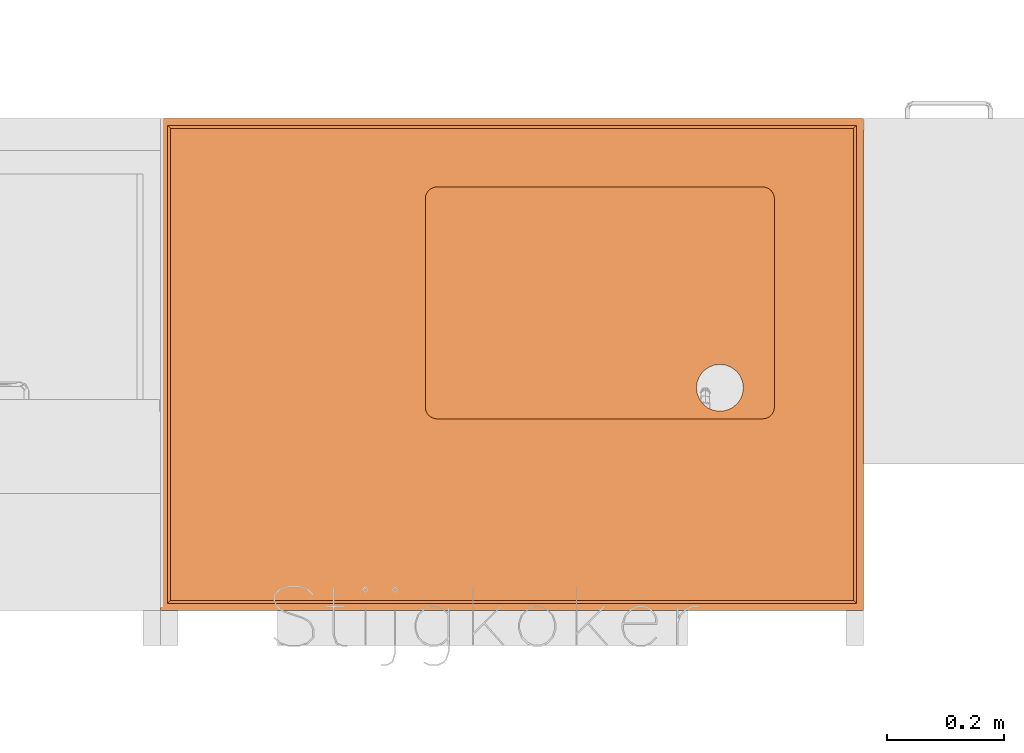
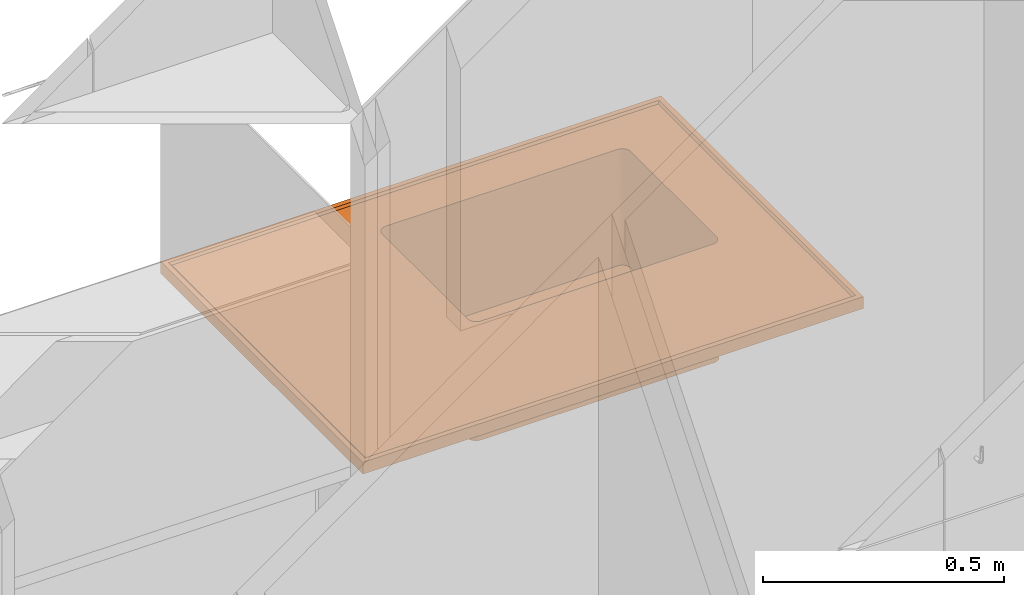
# One storey, part 26 of 32: 1 proxy.
"""IFC2X3 building model written with IfcOpenShell, lengths in metres."""

from ifc_helpers import new_model, entity, si_unit, converted_unit, derived_unit, direction, frame, origin, place, context, subcontext, project, spatial, faceted_brep, source, transform, mapped, material, type_object, type_shapes, element, save


model = new_model("IFC2X3")

# Units and contexts
model_context = context("Model", 3, precision=1e-05, world=origin(), true_north=direction((6.12303176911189e-17, 1.0)))
body_context = subcontext(model_context, "Body", "Model", "MODEL_VIEW")
ifc_project = project(units=[si_unit("LENGTHUNIT", "METRE"), si_unit("AREAUNIT", "SQUARE_METRE"), si_unit("VOLUMEUNIT", "CUBIC_METRE"), converted_unit("PLANEANGLEUNIT", "DEGREE", entity("IfcRatioMeasure", 0.0174532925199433), si_unit("PLANEANGLEUNIT", "RADIAN"), dimensions=[0, 0, 0, 0, 0, 0, 0]), si_unit("MASSUNIT", "GRAM", prefix="KILO"), derived_unit("MASSDENSITYUNIT", [(si_unit("MASSUNIT", "GRAM", prefix="KILO"), 1), (si_unit("LENGTHUNIT", "METRE"), -3)]), derived_unit("MOMENTOFINERTIAUNIT", [(si_unit("LENGTHUNIT", "METRE"), 4)]), si_unit("TIMEUNIT", "SECOND"), si_unit("FREQUENCYUNIT", "HERTZ"), si_unit("THERMODYNAMICTEMPERATUREUNIT", "DEGREE_CELSIUS"), derived_unit("THERMALTRANSMITTANCEUNIT", [(si_unit("MASSUNIT", "GRAM", prefix="KILO"), 1), (si_unit("THERMODYNAMICTEMPERATUREUNIT", "KELVIN"), -1), (si_unit("TIMEUNIT", "SECOND"), -3)]), derived_unit("VOLUMETRICFLOWRATEUNIT", [(si_unit("LENGTHUNIT", "METRE"), 3), (si_unit("TIMEUNIT", "SECOND"), -1)]), si_unit("ELECTRICCURRENTUNIT", "AMPERE"), si_unit("ELECTRICVOLTAGEUNIT", "VOLT"), si_unit("POWERUNIT", "WATT"), si_unit("FORCEUNIT", "NEWTON", prefix="KILO"), si_unit("ILLUMINANCEUNIT", "LUX"), si_unit("LUMINOUSFLUXUNIT", "LUMEN"), si_unit("LUMINOUSINTENSITYUNIT", "CANDELA"), derived_unit("USERDEFINED", [(si_unit("MASSUNIT", "GRAM", prefix="KILO"), -1), (si_unit("LENGTHUNIT", "METRE"), -2), (si_unit("TIMEUNIT", "SECOND"), 3), (si_unit("LUMINOUSFLUXUNIT", "LUMEN"), 1)]), derived_unit("LINEARVELOCITYUNIT", [(si_unit("LENGTHUNIT", "METRE"), 1), (si_unit("TIMEUNIT", "SECOND"), -1)]), si_unit("PRESSUREUNIT", "PASCAL"), derived_unit("USERDEFINED", [(si_unit("LENGTHUNIT", "METRE"), -2), (si_unit("MASSUNIT", "GRAM", prefix="KILO"), 1), (si_unit("TIMEUNIT", "SECOND"), -2)]), derived_unit("LINEARFORCEUNIT", [(si_unit("MASSUNIT", "GRAM", prefix="KILO"), 1), (si_unit("LENGTHUNIT", "METRE"), 1), (si_unit("TIMEUNIT", "SECOND"), -2), (si_unit("LENGTHUNIT", "METRE"), -1)]), derived_unit("PLANARFORCEUNIT", [(si_unit("MASSUNIT", "GRAM", prefix="KILO"), 1), (si_unit("LENGTHUNIT", "METRE"), 1), (si_unit("TIMEUNIT", "SECOND"), -2), (si_unit("LENGTHUNIT", "METRE"), -2)])], contexts=[model_context])

# Site, building, storey
site_placement = place(None, origin())
site = spatial("IfcSite", under=ifc_project, at=site_placement, Name="Default", CompositionType="ELEMENT")
building_placement = place(site_placement, origin())
building = spatial("IfcBuilding", under=site, at=building_placement, CompositionType="ELEMENT")
storey_placement = place(building_placement, origin())
storey = spatial("IfcBuildingStorey", under=building, at=storey_placement, Name="00 EG", CompositionType="ELEMENT", Elevation=0.0)

# Proxy
ifc_material = material(Name="Steinzeug")
building_element_proxy_type = type_object("IfcBuildingElementProxyType", Name="dh_Tischplatte Steinzeug Becken:dh_Tischplatte Steinzeug Becken", PredefinedType="NOTDEFINED", material=ifc_material)
shared_shape = source(origin(), body_context, "Body", "Brep", [
    faceted_brep([(0.150681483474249, 0.500176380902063, 0.0), (0.155857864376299, 0.509142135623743, 0.0), (0.16000000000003, 0.512320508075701, 0.0), (0.152679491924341, 0.505000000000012, 0.0), (0.15000000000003, 0.495000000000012, 0.0), (0.16482361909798, 0.514318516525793, 0.0), (0.17000000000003, 0.515000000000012, 0.0), (0.206362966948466, 0.470352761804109, 0.0), (0.210358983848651, 0.480000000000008, 0.0), (0.216715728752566, 0.48828427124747, 0.0), (0.225000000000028, 0.494641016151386, 0.0), (0.234647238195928, 0.498637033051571, 0.0), (0.245000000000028, 0.500000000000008, 0.0), (0.255352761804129, 0.498637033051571, 0.0), (0.73000000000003, 0.515000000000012, 0.0), (0.265000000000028, 0.494641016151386, 0.0), (0.27328427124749, 0.48828427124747, 0.0), (0.279641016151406, 0.480000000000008, 0.0), (0.283637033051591, 0.470352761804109, 0.0), (0.285000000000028, 0.460000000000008, 0.0), (0.283637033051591, 0.449647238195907, 0.0), (0.279641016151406, 0.440000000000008, 0.0), (0.73000000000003, 0.115000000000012, 0.0), (0.75000000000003, 0.135000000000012, 0.0), (0.75000000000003, 0.495000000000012, 0.0), (0.735176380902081, 0.514318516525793, 0.0), (0.74000000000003, 0.512320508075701, 0.0), (0.749318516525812, 0.500176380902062, 0.0), (0.744142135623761, 0.509142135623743, 0.0), (0.747320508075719, 0.505000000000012, 0.0), (0.73517638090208, 0.115681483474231, 0.0), (0.74000000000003, 0.117679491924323, 0.0), (0.749318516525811, 0.129823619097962, 0.0), (0.744142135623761, 0.120857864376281, 0.0), (0.747320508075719, 0.125000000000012, 0.0), (0.27328427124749, 0.431715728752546, 0.0), (0.170000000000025, 0.115000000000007, 0.0), (0.265000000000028, 0.425358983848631, 0.0), (0.255352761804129, 0.421362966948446, 0.0), (0.150000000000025, 0.135000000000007, 0.0), (0.164823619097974, 0.115681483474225, 0.0), (0.160000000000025, 0.117679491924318, 0.0), (0.150681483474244, 0.129823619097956, 0.0), (0.155857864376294, 0.120857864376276, 0.0), (0.152679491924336, 0.125000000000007, 0.0), (0.210358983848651, 0.440000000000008, 0.0), (0.216715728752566, 0.431715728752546, 0.0), (0.225000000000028, 0.425358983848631, 0.0), (0.234647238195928, 0.421362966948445, 0.0), (0.245000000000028, 0.420000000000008, 0.0), (0.205000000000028, 0.460000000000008, 0.0), (0.206362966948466, 0.449647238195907, 0.0), (0.74532050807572, 0.503000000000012, 0.3), (0.74732050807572, 0.505000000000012, 0.3), (0.742142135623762, 0.507142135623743, 0.3), (0.749318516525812, 0.500176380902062, 0.3), (0.747318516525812, 0.498176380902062, 0.3), (0.750000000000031, 0.495000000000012, 0.3), (0.748000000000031, 0.493000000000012, 0.3), (0.748000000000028, 0.137000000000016, 0.3), (0.750000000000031, 0.135000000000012, 0.3), (0.747318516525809, 0.131823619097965, 0.3), (0.749318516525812, 0.129823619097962, 0.3), (0.745320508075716, 0.127000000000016, 0.3), (0.74732050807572, 0.125000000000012, 0.3), (0.742142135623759, 0.122857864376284, 0.3), (0.744142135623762, 0.120857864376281, 0.3), (0.740000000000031, 0.117679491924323, 0.3), (0.738000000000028, 0.119679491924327, 0.3), (0.735176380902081, 0.115681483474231, 0.3), (0.733176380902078, 0.117681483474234, 0.3), (0.730000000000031, 0.115000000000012, 0.3), (0.728000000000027, 0.117000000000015, 0.3), (0.172000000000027, 0.117000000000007, 0.300000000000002), (0.170000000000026, 0.115000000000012, 0.300000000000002), (0.166823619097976, 0.117681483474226, 0.300000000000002), (0.164823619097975, 0.115681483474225, 0.300000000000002), (0.162000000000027, 0.119679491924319, 0.300000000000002), (0.160000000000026, 0.117679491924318, 0.300000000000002), (0.157857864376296, 0.122857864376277, 0.300000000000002), (0.155857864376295, 0.120857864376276, 0.300000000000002), (0.152679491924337, 0.125000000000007, 0.300000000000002), (0.154679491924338, 0.127000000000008, 0.300000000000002), (0.150681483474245, 0.129823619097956, 0.300000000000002), (0.152681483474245, 0.131823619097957, 0.300000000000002), (0.150000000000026, 0.135000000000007, 0.300000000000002), (0.152000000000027, 0.137000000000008, 0.300000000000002), (0.150000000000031, 0.495000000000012, 0.300000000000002), (0.152000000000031, 0.493000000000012, 0.300000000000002), (0.15268148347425, 0.498176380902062, 0.300000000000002), (0.15068148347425, 0.500176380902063, 0.300000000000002), (0.154679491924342, 0.503000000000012, 0.300000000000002), (0.152679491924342, 0.505000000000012, 0.300000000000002), (0.1578578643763, 0.507142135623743, 0.300000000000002), (0.1558578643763, 0.509142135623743, 0.300000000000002), (0.160000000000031, 0.512320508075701, 0.300000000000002), (0.162000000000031, 0.510320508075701, 0.300000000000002), (0.164823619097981, 0.514318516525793, 0.300000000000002), (0.166823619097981, 0.512318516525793, 0.300000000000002), (0.170000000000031, 0.515000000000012, 0.300000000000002), (0.172000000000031, 0.513000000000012, 0.300000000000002), (0.730000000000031, 0.515000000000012, 0.3), (0.728000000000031, 0.513000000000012, 0.3), (0.733176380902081, 0.512318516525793, 0.3), (0.735176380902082, 0.514318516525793, 0.3), (0.738000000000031, 0.510320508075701, 0.3), (0.740000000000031, 0.512320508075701, 0.3), (0.744142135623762, 0.509142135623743, 0.3), (0.730000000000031, 0.515000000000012, 0.15000042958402), (0.170000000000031, 0.515000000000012, 0.150000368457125), (0.150000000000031, 0.495000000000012, 0.150000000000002), (0.150000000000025, 0.135000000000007, 0.150000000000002), (0.170000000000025, 0.115000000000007, 0.150000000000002), (0.73000000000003, 0.115000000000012, 0.15), (0.75000000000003, 0.135000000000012, 0.15), (0.750000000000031, 0.495000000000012, 0.15), (0.16200000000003, 0.510320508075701, 0.00500000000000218), (0.157857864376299, 0.507142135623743, 0.00500000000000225), (0.152681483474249, 0.498176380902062, 0.00500000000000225), (0.15200000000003, 0.493000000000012, 0.00500000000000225), (0.16682361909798, 0.512318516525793, 0.00500000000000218), (0.154679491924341, 0.503000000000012, 0.00500000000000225), (0.17200000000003, 0.513000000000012, 0.00500000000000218), (0.206362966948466, 0.470352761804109, 0.00500000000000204), (0.205000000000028, 0.460000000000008, 0.00500000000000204), (0.206362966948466, 0.449647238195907, 0.00500000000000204), (0.210358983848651, 0.440000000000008, 0.00500000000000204), (0.152000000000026, 0.137000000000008, 0.00500000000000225), (0.216715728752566, 0.431715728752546, 0.00500000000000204), (0.225000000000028, 0.425358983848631, 0.00500000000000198), (0.234647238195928, 0.421362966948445, 0.00500000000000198), (0.245000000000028, 0.420000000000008, 0.00500000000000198), (0.255352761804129, 0.421362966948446, 0.00500000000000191), (0.172000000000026, 0.117000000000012, 0.00500000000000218), (0.166823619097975, 0.117681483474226, 0.00500000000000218), (0.162000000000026, 0.119679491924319, 0.00500000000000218), (0.152681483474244, 0.131823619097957, 0.00500000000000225), (0.157857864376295, 0.122857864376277, 0.00500000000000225), (0.154679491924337, 0.127000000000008, 0.00500000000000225), (0.265000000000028, 0.425358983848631, 0.00500000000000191), (0.27328427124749, 0.431715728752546, 0.00500000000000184), (0.728000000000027, 0.117000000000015, 0.00500000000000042), (0.279641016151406, 0.440000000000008, 0.00500000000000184), (0.72800000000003, 0.513000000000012, 0.00500000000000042), (0.74800000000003, 0.137000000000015, 0.00500000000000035), (0.733176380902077, 0.117681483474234, 0.00500000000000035), (0.738000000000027, 0.119679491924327, 0.00500000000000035), (0.747318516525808, 0.131823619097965, 0.00500000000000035), (0.742142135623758, 0.122857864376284, 0.00500000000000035), (0.745320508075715, 0.127000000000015, 0.00500000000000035), (0.74800000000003, 0.493000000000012, 0.00500000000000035), (0.733176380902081, 0.512318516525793, 0.00500000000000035), (0.73800000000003, 0.510320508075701, 0.00500000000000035), (0.747318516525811, 0.498176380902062, 0.00500000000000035), (0.742142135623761, 0.507142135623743, 0.00500000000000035), (0.745320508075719, 0.503000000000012, 0.00500000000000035), (0.255352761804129, 0.498637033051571, 0.00500000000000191), (0.265000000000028, 0.494641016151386, 0.00500000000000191), (0.27328427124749, 0.48828427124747, 0.00500000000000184), (0.279641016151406, 0.480000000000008, 0.00500000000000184), (0.283637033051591, 0.470352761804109, 0.00500000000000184), (0.285000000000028, 0.460000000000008, 0.00500000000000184), (0.283637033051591, 0.449647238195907, 0.00500000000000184), (0.210358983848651, 0.480000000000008, 0.00500000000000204), (0.216715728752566, 0.48828427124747, 0.00500000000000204), (0.225000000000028, 0.494641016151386, 0.00500000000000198), (0.234647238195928, 0.498637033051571, 0.00500000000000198), (0.245000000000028, 0.500000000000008, 0.00500000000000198), (0.172000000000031, 0.513000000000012, 0.152499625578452), (0.728000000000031, 0.513000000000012, 0.1525), (0.152000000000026, 0.137000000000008, 0.152500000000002), (0.152000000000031, 0.493000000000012, 0.152500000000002), (0.728000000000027, 0.117000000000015, 0.1525), (0.172000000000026, 0.117000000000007, 0.152500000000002), (0.748000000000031, 0.493000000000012, 0.1525), (0.748000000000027, 0.137000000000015, 0.1525), (0.164346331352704, 0.511477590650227, 0.152499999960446), (0.153522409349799, 0.500653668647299, 0.152499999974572), (0.152384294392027, 0.496901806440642, 0.187662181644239), (0.168098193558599, 0.512615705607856, 0.117337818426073), (0.159824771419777, 0.508867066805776, 0.136631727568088), (0.156132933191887, 0.505175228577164, 0.168368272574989), (0.153522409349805, 0.129346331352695, 0.15249999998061), (0.164346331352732, 0.118522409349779, 0.152499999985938), (0.168098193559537, 0.117384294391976, 0.187662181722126), (0.15238429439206, 0.133098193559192, 0.117337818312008), (0.156132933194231, 0.124824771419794, 0.136631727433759), (0.15982477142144, 0.121132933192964, 0.168368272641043), (0.735653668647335, 0.118522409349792, 0.152499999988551), (0.746477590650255, 0.129346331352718, 0.152499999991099), (0.747615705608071, 0.133098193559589, 0.187662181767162), (0.731901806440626, 0.117384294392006, 0.117337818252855), (0.740175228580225, 0.121132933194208, 0.136631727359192), (0.7438670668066, 0.124824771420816, 0.168368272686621), (0.746477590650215, 0.500653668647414, 0.152499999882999), (0.735653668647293, 0.511477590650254, 0.152499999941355), (0.731901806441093, 0.512615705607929, 0.187662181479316), (0.747615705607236, 0.496901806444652, 0.117337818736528), (0.743867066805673, 0.505175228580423, 0.136631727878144), (0.740175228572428, 0.508867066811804, 0.168368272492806), (0.162346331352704, 0.513477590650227, 0.149999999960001), (0.150384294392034, 0.498901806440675, 0.187055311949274), (0.151522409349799, 0.502653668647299, 0.14999999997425), (0.166098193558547, 0.514615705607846, 0.112944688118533), (0.157824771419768, 0.510867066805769, 0.13191703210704), (0.154132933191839, 0.507175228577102, 0.16808296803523), (0.151522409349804, 0.127346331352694, 0.149999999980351), (0.166098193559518, 0.115384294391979, 0.187055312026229), (0.162346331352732, 0.116522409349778, 0.149999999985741), (0.150384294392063, 0.131098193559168, 0.112944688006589), (0.154132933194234, 0.122824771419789, 0.13191703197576), (0.157824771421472, 0.119132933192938, 0.168082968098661), (0.737653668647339, 0.116522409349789, 0.149999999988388), (0.749615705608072, 0.131098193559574, 0.187055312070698), (0.748477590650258, 0.127346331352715, 0.14999999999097), (0.733901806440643, 0.115384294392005, 0.112944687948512), (0.742175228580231, 0.119132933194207, 0.131917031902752), (0.745867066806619, 0.122824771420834, 0.168082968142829), (0.748477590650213, 0.502653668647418, 0.149999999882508), (0.733901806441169, 0.514615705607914, 0.187055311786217), (0.737653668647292, 0.513477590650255, 0.149999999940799), (0.749615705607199, 0.498901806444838, 0.112944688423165), (0.745867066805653, 0.507175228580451, 0.131917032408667), (0.742175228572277, 0.51086706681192, 0.168082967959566)], [[[0, 1, 2]], [[0, 3, 1]], [[0, 2, 4]], [[4, 2, 5]], [[5, 6, 4]], [[6, 7, 4]], [[8, 7, 6]], [[8, 6, 9]], [[10, 9, 6]], [[6, 11, 10]], [[6, 12, 11]], [[12, 6, 13]], [[13, 6, 14]], [[15, 13, 14]], [[16, 15, 14]], [[16, 14, 17]], [[18, 17, 14]], [[19, 18, 14]], [[19, 14, 20]], [[20, 14, 21]], [[22, 21, 14]], [[23, 22, 14]], [[23, 14, 24]], [[24, 14, 25]], [[24, 25, 26]], [[24, 26, 27]], [[27, 26, 28]], [[28, 29, 27]], [[22, 23, 30]], [[31, 30, 23]], [[32, 31, 23]], [[33, 31, 32]], [[33, 32, 34]], [[35, 21, 22]], [[22, 36, 35]], [[35, 36, 37]], [[37, 36, 38]], [[39, 38, 36]], [[39, 36, 40]], [[41, 39, 40]], [[41, 42, 39]], [[42, 41, 43]], [[42, 43, 44]], [[39, 4, 45]], [[46, 39, 45]], [[39, 46, 47]], [[47, 48, 39]], [[49, 39, 48]], [[38, 39, 49]], [[4, 7, 50]], [[4, 50, 51]], [[4, 51, 45]], [[52, 53, 54]], [[53, 52, 55]], [[55, 52, 56]], [[57, 55, 56]], [[56, 58, 57]], [[57, 58, 59]], [[59, 60, 57]], [[60, 59, 61]], [[60, 61, 62]], [[62, 61, 63]], [[64, 62, 63]], [[65, 64, 63]], [[64, 65, 66]], [[65, 67, 66]], [[65, 68, 67]], [[67, 68, 69]], [[68, 70, 69]], [[71, 69, 70]], [[72, 71, 70]], [[71, 72, 73]], [[73, 74, 71]], [[73, 75, 74]], [[74, 75, 76]], [[75, 77, 76]], [[77, 78, 76]], [[77, 79, 78]], [[79, 80, 78]], [[79, 81, 80]], [[81, 79, 82]], [[83, 81, 82]], [[82, 84, 83]], [[84, 85, 83]], [[84, 86, 85]], [[85, 86, 87]], [[88, 87, 86]], [[88, 89, 87]], [[90, 87, 89]], [[89, 91, 90]], [[91, 92, 90]], [[92, 91, 93]], [[92, 93, 94]], [[93, 95, 94]], [[95, 93, 96]], [[97, 95, 96]], [[98, 97, 96]], [[98, 99, 97]], [[98, 100, 99]], [[99, 100, 101]], [[102, 101, 100]], [[103, 101, 102]], [[103, 104, 101]], [[104, 103, 105]], [[54, 106, 105]], [[105, 106, 104]], [[54, 53, 107]], [[106, 54, 107]], [[99, 101, 108, 14, 6, 109]], [[87, 110, 4, 39, 111, 85]], [[74, 112, 36, 22, 113, 71]], [[60, 114, 23, 24, 115, 57]], [[116, 117, 118]], [[119, 116, 118]], [[120, 116, 119]], [[117, 121, 118]], [[119, 122, 120]], [[119, 123, 122]], [[124, 123, 119]], [[125, 124, 119]], [[126, 125, 119]], [[126, 119, 127]], [[126, 127, 128]], [[129, 128, 127]], [[127, 130, 129]], [[130, 127, 131]], [[131, 127, 132]], [[133, 132, 127]], [[134, 133, 127]], [[134, 127, 135]], [[127, 136, 135]], [[137, 135, 136]], [[138, 137, 136]], [[132, 133, 139]], [[139, 133, 140]], [[140, 133, 141]], [[141, 142, 140]], [[143, 142, 141]], [[143, 141, 144]], [[145, 144, 141]], [[144, 145, 146]], [[144, 146, 147]], [[147, 146, 148]], [[149, 147, 148]], [[150, 143, 144]], [[151, 143, 150]], [[152, 151, 150]], [[153, 152, 150]], [[154, 152, 153]], [[153, 155, 154]], [[143, 122, 156]], [[143, 156, 157]], [[143, 157, 158]], [[159, 143, 158]], [[143, 159, 160]], [[143, 160, 161]], [[162, 143, 161]], [[142, 143, 162]], [[122, 123, 163]], [[164, 122, 163]], [[122, 164, 165]], [[165, 166, 122]], [[166, 167, 122]], [[156, 122, 167]], [[100, 168, 122, 143, 169, 102]], [[86, 170, 127, 119, 171, 88]], [[72, 172, 141, 133, 173, 73]], [[58, 174, 150, 144, 175, 59]], [[19, 161, 160, 18]], [[18, 160, 159, 17]], [[15, 16, 158, 157]], [[158, 16, 17, 159]], [[13, 15, 157, 156]], [[13, 156, 167, 12]], [[12, 167, 166, 11]], [[11, 166, 165, 10]], [[8, 9, 164, 163]], [[164, 9, 10, 165]], [[7, 8, 163, 123]], [[7, 123, 124, 50]], [[50, 124, 125, 51]], [[51, 125, 126, 45]], [[47, 46, 128, 129]], [[128, 46, 45, 126]], [[48, 47, 129, 130]], [[48, 130, 131, 49]], [[49, 131, 132, 38]], [[38, 132, 139, 37]], [[21, 35, 140, 142]], [[140, 35, 37, 139]], [[20, 21, 142, 162]], [[20, 162, 161, 19]], [[116, 120, 176]], [[177, 178, 118]], [[168, 179, 122]], [[116, 176, 180]], [[180, 117, 116]], [[176, 120, 179]], [[89, 88, 178]], [[100, 98, 168]], [[176, 98, 96]], [[122, 179, 120]], [[180, 176, 96]], [[171, 178, 88]], [[118, 121, 177]], [[117, 180, 181]], [[181, 180, 93]], [[171, 119, 118]], [[181, 121, 117]], [[91, 177, 181]], [[98, 179, 168]], [[91, 89, 177]], [[89, 178, 177]], [[93, 180, 96]], [[118, 178, 171]], [[181, 177, 121]], [[176, 179, 98]], [[93, 91, 181]], [[138, 136, 182]], [[183, 184, 134]], [[170, 185, 127]], [[138, 182, 186]], [[186, 137, 138]], [[182, 136, 185]], [[75, 73, 184]], [[86, 84, 170]], [[182, 84, 82]], [[127, 185, 136]], [[186, 182, 82]], [[173, 184, 73]], [[134, 135, 183]], [[137, 186, 187]], [[187, 186, 79]], [[173, 133, 134]], [[187, 135, 137]], [[77, 183, 187]], [[84, 185, 170]], [[77, 75, 183]], [[75, 184, 183]], [[79, 186, 82]], [[134, 184, 173]], [[187, 183, 135]], [[182, 185, 84]], [[79, 77, 187]], [[146, 145, 188]], [[189, 190, 147]], [[172, 191, 141]], [[146, 188, 192]], [[192, 148, 146]], [[188, 145, 191]], [[61, 59, 190]], [[72, 70, 172]], [[188, 70, 68]], [[141, 191, 145]], [[192, 188, 68]], [[175, 190, 59]], [[147, 149, 189]], [[148, 192, 193]], [[193, 192, 65]], [[175, 144, 147]], [[193, 149, 148]], [[63, 189, 193]], [[70, 191, 172]], [[63, 61, 189]], [[61, 190, 189]], [[65, 192, 68]], [[147, 190, 175]], [[193, 189, 149]], [[188, 191, 70]], [[65, 63, 193]], [[155, 153, 194]], [[195, 196, 151]], [[174, 197, 150]], [[155, 194, 198]], [[198, 154, 155]], [[194, 153, 197]], [[103, 102, 196]], [[58, 56, 174]], [[194, 56, 52]], [[150, 197, 153]], [[198, 194, 52]], [[169, 196, 102]], [[151, 152, 195]], [[154, 198, 199]], [[199, 198, 54]], [[169, 143, 151]], [[199, 152, 154]], [[105, 195, 199]], [[56, 197, 174]], [[105, 103, 195]], [[103, 196, 195]], [[54, 198, 52]], [[151, 196, 169]], [[199, 195, 152]], [[194, 197, 56]], [[54, 105, 199]], [[200, 5, 2]], [[0, 201, 202]], [[6, 203, 109]], [[204, 200, 2]], [[2, 1, 204]], [[203, 5, 200]], [[201, 87, 90]], [[109, 97, 99]], [[95, 97, 200]], [[5, 203, 6]], [[95, 200, 204]], [[87, 201, 110]], [[202, 3, 0]], [[205, 204, 1]], [[94, 204, 205]], [[0, 4, 110]], [[1, 3, 205]], [[205, 202, 92]], [[109, 203, 97]], [[202, 90, 92]], [[202, 201, 90]], [[95, 204, 94]], [[110, 201, 0]], [[3, 202, 205]], [[97, 203, 200]], [[205, 92, 94]], [[206, 42, 44]], [[40, 207, 208]], [[39, 209, 111]], [[210, 206, 44]], [[44, 43, 210]], [[209, 42, 206]], [[207, 74, 76]], [[111, 83, 85]], [[81, 83, 206]], [[42, 209, 39]], [[81, 206, 210]], [[74, 207, 112]], [[208, 41, 40]], [[211, 210, 43]], [[80, 210, 211]], [[40, 36, 112]], [[43, 41, 211]], [[211, 208, 78]], [[111, 209, 83]], [[208, 76, 78]], [[208, 207, 76]], [[81, 210, 80]], [[112, 207, 40]], [[41, 208, 211]], [[83, 209, 206]], [[211, 78, 80]], [[212, 30, 31]], [[32, 213, 214]], [[22, 215, 113]], [[216, 212, 31]], [[31, 33, 216]], [[215, 30, 212]], [[213, 60, 62]], [[113, 69, 71]], [[67, 69, 212]], [[30, 215, 22]], [[67, 212, 216]], [[60, 213, 114]], [[214, 34, 32]], [[217, 216, 33]], [[66, 216, 217]], [[32, 23, 114]], [[33, 34, 217]], [[217, 214, 64]], [[113, 215, 69]], [[214, 62, 64]], [[214, 213, 62]], [[67, 216, 66]], [[114, 213, 32]], [[34, 214, 217]], [[69, 215, 212]], [[217, 64, 66]], [[218, 27, 29]], [[25, 219, 220]], [[24, 221, 115]], [[222, 218, 29]], [[29, 28, 222]], [[221, 27, 218]], [[219, 101, 104]], [[115, 55, 57]], [[53, 55, 218]], [[27, 221, 24]], [[53, 218, 222]], [[101, 219, 108]], [[220, 26, 25]], [[223, 222, 28]], [[107, 222, 223]], [[25, 14, 108]], [[28, 26, 223]], [[223, 220, 106]], [[115, 221, 55]], [[220, 104, 106]], [[220, 219, 104]], [[53, 222, 107]], [[108, 219, 25]], [[26, 220, 223]], [[55, 221, 218]], [[223, 106, 107]]]),
    faceted_brep([(1.18300002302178, 0.823000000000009, 0.299999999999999), (0.74532050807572, 0.503000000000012, 0.3), (0.747318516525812, 0.498176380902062, 0.3), (0.742142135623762, 0.507142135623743, 0.300000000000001), (0.748000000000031, 0.493000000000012, 0.3), (1.18300002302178, 0.0170000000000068, 0.299999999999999), (0.738000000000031, 0.510320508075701, 0.300000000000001), (0.733176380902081, 0.512318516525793, 0.300000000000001), (0.728000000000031, 0.513000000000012, 0.300000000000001), (0.0170000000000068, 0.823000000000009, 0.300000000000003), (0.172000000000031, 0.513000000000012, 0.300000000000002), (0.166823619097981, 0.512318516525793, 0.300000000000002), (0.162000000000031, 0.510320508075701, 0.300000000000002), (0.1578578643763, 0.507142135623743, 0.300000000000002), (0.154679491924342, 0.503000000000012, 0.300000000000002), (0.15268148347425, 0.498176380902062, 0.300000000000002), (0.152000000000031, 0.493000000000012, 0.300000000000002), (0.017000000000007, 0.0170000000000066, 0.300000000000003), (0.728000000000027, 0.117000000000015, 0.300000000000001), (0.152000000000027, 0.137000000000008, 0.300000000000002), (0.152681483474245, 0.131823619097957, 0.300000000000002), (0.154679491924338, 0.127000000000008, 0.300000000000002), (0.157857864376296, 0.122857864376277, 0.300000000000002), (0.162000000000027, 0.119679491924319, 0.300000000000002), (0.166823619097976, 0.117681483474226, 0.300000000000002), (0.172000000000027, 0.117000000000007, 0.300000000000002), (0.733176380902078, 0.117681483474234, 0.300000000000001), (0.748000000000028, 0.137000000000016, 0.3), (0.747318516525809, 0.131823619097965, 0.3), (0.745320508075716, 0.127000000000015, 0.3), (0.742142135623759, 0.122857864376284, 0.300000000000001), (0.738000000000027, 0.119679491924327, 0.300000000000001), (0.0, 0.840000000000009, 0.275000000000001), (0.154679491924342, 0.503000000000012, 0.275000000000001), (0.15268148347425, 0.498176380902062, 0.275000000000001), (0.1578578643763, 0.507142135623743, 0.275000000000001), (0.152000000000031, 0.493000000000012, 0.275000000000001), (0.0, 0.0, 0.275000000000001), (0.162000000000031, 0.510320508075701, 0.275000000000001), (0.166823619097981, 0.512318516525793, 0.275000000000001), (0.172000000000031, 0.513000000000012, 0.275000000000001), (0.728000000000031, 0.513000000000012, 0.274999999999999), (1.20000002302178, 0.840000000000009, 0.274999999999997), (0.733176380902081, 0.512318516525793, 0.274999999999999), (0.738000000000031, 0.510320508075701, 0.274999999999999), (0.742142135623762, 0.507142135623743, 0.274999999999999), (0.74532050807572, 0.503000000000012, 0.274999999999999), (0.747318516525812, 0.498176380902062, 0.274999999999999), (0.748000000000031, 0.493000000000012, 0.274999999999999), (1.20000002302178, 0.0, 0.274999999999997), (0.748000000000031, 0.137000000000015, 0.274999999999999), (0.747318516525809, 0.131823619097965, 0.274999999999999), (0.745320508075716, 0.127000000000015, 0.274999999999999), (0.742142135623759, 0.122857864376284, 0.274999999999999), (0.738000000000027, 0.119679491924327, 0.274999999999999), (0.733176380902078, 0.117681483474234, 0.274999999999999), (0.728000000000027, 0.117000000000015, 0.274999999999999), (0.152000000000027, 0.137000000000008, 0.275000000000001), (0.152681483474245, 0.131823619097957, 0.275000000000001), (0.154679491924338, 0.127000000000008, 0.275000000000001), (0.157857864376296, 0.122857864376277, 0.275000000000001), (0.162000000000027, 0.119679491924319, 0.275000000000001), (0.166823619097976, 0.117681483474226, 0.275000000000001), (0.172000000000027, 0.117000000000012, 0.275000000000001), (0.0, 0.840000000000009, 0.305000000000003), (1.20000002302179, 0.840000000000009, 0.304999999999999), (0.0, 0.0, 0.305000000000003), (1.20000002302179, 0.0, 0.304999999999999), (0.0120000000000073, 0.828000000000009, 0.305000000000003), (1.18800002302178, 0.828000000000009, 0.304999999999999), (1.18800002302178, 0.0120000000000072, 0.304999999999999), (0.0120000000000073, 0.012000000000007, 0.305000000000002)], [[[0, 1, 2]], [[1, 0, 3]], [[2, 4, 0]], [[0, 4, 5]], [[6, 3, 0]], [[7, 6, 0]], [[8, 7, 0]], [[0, 9, 8]], [[10, 8, 9]], [[11, 10, 9]], [[11, 9, 12]], [[13, 12, 9]], [[9, 14, 13]], [[14, 9, 15]], [[16, 15, 9]], [[9, 17, 16]], [[5, 18, 17]], [[19, 16, 17]], [[20, 19, 17]], [[17, 21, 20]], [[21, 17, 22]], [[23, 22, 17]], [[23, 17, 24]], [[25, 24, 17]], [[25, 17, 18]], [[26, 18, 5]], [[27, 5, 4]], [[27, 28, 5]], [[29, 5, 28]], [[5, 29, 30]], [[30, 31, 5]], [[31, 26, 5]], [[32, 33, 34]], [[33, 32, 35]], [[34, 36, 32]], [[32, 36, 37]], [[38, 35, 32]], [[39, 38, 32]], [[40, 39, 32]], [[32, 41, 40]], [[41, 32, 42]], [[43, 41, 42]], [[43, 42, 44]], [[45, 44, 42]], [[42, 46, 45]], [[46, 42, 47]], [[48, 47, 42]], [[42, 49, 48]], [[50, 48, 49]], [[51, 50, 49]], [[49, 52, 51]], [[52, 49, 53]], [[54, 53, 49]], [[54, 49, 55]], [[56, 55, 49]], [[56, 49, 37]], [[57, 37, 36]], [[57, 58, 37]], [[59, 37, 58]], [[37, 59, 60]], [[60, 61, 37]], [[61, 62, 37]], [[62, 63, 37]], [[37, 63, 56]], [[64, 65, 42, 32]], [[66, 64, 32, 37]], [[67, 66, 37, 49]], [[65, 67, 49, 42]], [[68, 9, 0, 69]], [[69, 0, 5, 70]], [[70, 5, 17, 71]], [[71, 17, 9, 68]], [[67, 70, 71]], [[70, 67, 69]], [[71, 66, 67]], [[65, 69, 67]], [[69, 65, 68]], [[64, 68, 65]], [[68, 64, 66]], [[66, 71, 68]], [[41, 8, 10, 40]], [[36, 16, 19, 57]], [[56, 63, 25, 18]], [[50, 27, 4, 48]], [[39, 40, 10, 11]], [[38, 39, 11, 12]], [[38, 12, 13, 35]], [[33, 35, 13, 14]], [[34, 33, 14, 15]], [[15, 16, 36, 34]], [[58, 57, 19, 20]], [[59, 58, 20, 21]], [[59, 21, 22, 60]], [[62, 61, 23, 24]], [[63, 62, 24, 25]], [[22, 23, 61, 60]], [[55, 56, 18, 26]], [[54, 55, 26, 31]], [[54, 31, 30, 53]], [[51, 52, 29, 28]], [[50, 51, 28, 27]], [[30, 29, 52, 53]], [[47, 48, 4, 2]], [[46, 47, 2, 1]], [[46, 1, 3, 45]], [[44, 45, 3, 6]], [[43, 44, 6, 7]], [[7, 8, 41, 43]]]),
])
type_shapes(building_element_proxy_type, [shared_shape])
proxy_placement = place(storey_placement, frame((16.4499999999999, 11.05, 0.594999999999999), z_axis=(0.0, 0.0, 1.0), x_axis=(-1.0, 0.0, 0.0)))
element("IfcBuildingElementProxy", 1, at=proxy_placement, inside=storey, type_object=building_element_proxy_type, material=ifc_material, Name="dh_Tischplatte Steinzeug Becken:dh_Tischplatte Steinzeug Becken", ObjectType="dh_Tischplatte Steinzeug Becken:dh_Tischplatte Steinzeug Becken", context=body_context, shape_type="MappedRepresentation", body=[
    mapped(shared_shape, transform((0.0, 0.0, 0.0), scale=1.0)),
])

save(model, "model.ifc")
